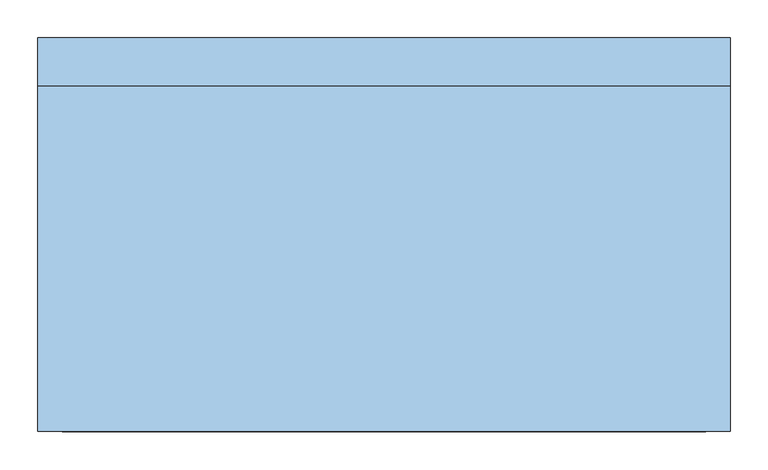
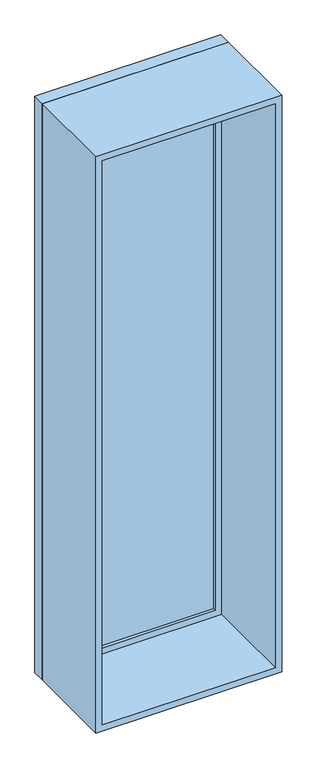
"""IFC4 building model written with IfcOpenShell, lengths in millimetres: window geometry, M_Неподвижный : 0915 x 1830 мм."""

import ifcopenshell
import ifcopenshell.guid

model = None  # the IFC model being written
_history = None  # IfcOwnerHistory: only IFC2X3 demands one
_inside = {}  # id of a spatial element -> (the spatial element, [elements in it])
_under = {}  # id of a project, library or spatial element -> (it, [spatial elements below it])
_declared = {}  # id of a project -> (the project, [libraries it declares])
_typed = {}  # id of a type object -> (the type object, [elements of that type])
_made_of = {}  # id of a material, layer set ... -> (it, [elements and type objects made of it])


def new_model(schema):
    """Start an empty IFC model of exactly this schema.

    Asked for "IFC4X3", IfcOpenShell would pick the latest addendum, in which some entities
    have other attributes; the version numbers below select the first issue.
    IFC2X3 requires an IfcOwnerHistory on every rooted entity: one is made here for all.
    """
    global model, _history
    if schema == "IFC4X3":
        model = ifcopenshell.file(schema_version=(4, 3, 0, 0))
    else:
        model = ifcopenshell.file(schema=schema)
    _inside.clear()
    _under.clear()
    _declared.clear()
    _typed.clear()
    _made_of.clear()
    _history = None
    if model.schema == "IFC2X3":
        org = make("IfcOrganization", Name="unknown")
        user = make(
            "IfcPersonAndOrganization",
            ThePerson=make("IfcPerson", FamilyName="unknown"),
            TheOrganization=org,
        )
        app = make(
            "IfcApplication",
            ApplicationDeveloper=org,
            Version="unknown",
            ApplicationFullName="unknown",
            ApplicationIdentifier="unknown",
        )
        _history = make(
            "IfcOwnerHistory",
            OwningUser=user,
            OwningApplication=app,
            ChangeAction="ADDED",
            CreationDate=0,
        )
    return model


def make(cls, **values):
    """One entity of the class cls with the attributes given. An attribute that is None is left unset."""
    return model.create_entity(
        cls, **{name: value for name, value in values.items() if value is not None}
    )


def rooted(cls, **values):
    """An entity with a GlobalId (a new one), such as an element, a storey or a relation."""
    return make(cls, GlobalId=ifcopenshell.guid.new(), OwnerHistory=_history, **values)


def si_unit(unit_type, name, prefix=None):
    """IfcSIUnit, for example si_unit("LENGTHUNIT", "METRE", prefix="MILLI")."""
    return make("IfcSIUnit", UnitType=unit_type, Prefix=prefix, Name=name)


def assignment(units):
    """IfcUnitAssignment: the units of a project."""
    return None if units is None else make("IfcUnitAssignment", Units=units)


def point(xyz):
    """IfcCartesianPoint."""
    return None if xyz is None else make("IfcCartesianPoint", Coordinates=xyz)


def direction(xyz):
    """IfcDirection."""
    return None if xyz is None else make("IfcDirection", DirectionRatios=xyz)


def frame(location, z_axis=None, x_axis=None):
    """IfcAxis2Placement3D, a coordinate frame: its origin and axes. An axis left out is left unset."""
    return make(
        "IfcAxis2Placement3D",
        Location=point(location),
        Axis=direction(z_axis),
        RefDirection=direction(x_axis),
    )


def origin():
    """The frame at (0, 0, 0) with its axes left unset."""
    return frame((0.0, 0.0, 0.0))


def place(relative_to, where):
    """IfcLocalPlacement: puts the frame where relative to a parent placement (None: the world)."""
    return make(
        "IfcLocalPlacement", PlacementRelTo=relative_to, RelativePlacement=where
    )


def context(
    kind, dimensions, precision=None, world=None, true_north=None, identifier=None
):
    """IfcGeometricRepresentationContext, for example the 3D "Model" context."""
    return make(
        "IfcGeometricRepresentationContext",
        ContextIdentifier=identifier,
        ContextType=kind,
        CoordinateSpaceDimension=dimensions,
        Precision=precision,
        WorldCoordinateSystem=world,
        TrueNorth=true_north,
    )


def project(units=None, contexts=None):
    """IfcProject with its units and contexts."""
    return rooted(
        "IfcProject",
        Name="project",
        RepresentationContexts=contexts,
        UnitsInContext=assignment(units),
    )


def spatial(cls, under=None, at=None, **own):
    """A site, building, storey or space (cls), placed at a placement, below another one or the project."""
    s = rooted(cls, ObjectPlacement=at, **own)
    if under is not None:
        _under.setdefault(under.id(), (under, []))[1].append(s)
    return s


def polyline(points):
    """IfcPolyline through the points."""
    return make("IfcPolyline", Points=[point(p) for p in points])


def outline(outer, holes=None, kind="AREA"):
    """IfcArbitraryClosedProfileDef: a profile drawn as a closed curve; with holes, ...WithVoids."""
    if holes is None:
        return make("IfcArbitraryClosedProfileDef", ProfileType=kind, OuterCurve=outer)
    return make(
        "IfcArbitraryProfileDefWithVoids",
        ProfileType=kind,
        OuterCurve=outer,
        InnerCurves=holes,
    )


def extrude(swept, where, along, depth):
    """IfcExtrudedAreaSolid: the profile swept, set in the frame where, extruded along a direction by depth."""
    return make(
        "IfcExtrudedAreaSolid",
        SweptArea=swept,
        Position=where,
        ExtrudedDirection=direction(along),
        Depth=depth,
    )


def shape(context_of_items, identifier, shape_type, items):
    """IfcShapeRepresentation: the items that make up one representation, for example the "Body"."""
    return make(
        "IfcShapeRepresentation",
        ContextOfItems=context_of_items,
        RepresentationIdentifier=identifier,
        RepresentationType=shape_type,
        Items=items,
    )


def source(mapping_origin, context_of_items, identifier, shape_type, items):
    """IfcRepresentationMap: a shape defined once, which mapped items show again and again."""
    return make(
        "IfcRepresentationMap",
        MappingOrigin=mapping_origin,
        MappedRepresentation=shape(context_of_items, identifier, shape_type, items),
    )


def transform(
    local_origin,
    x_axis=None,
    y_axis=None,
    z_axis=None,
    scale=None,
    scale2=None,
    scale3=None,
    uniform=True,
):
    """IfcCartesianTransformationOperator3D, or its non-uniform kind. x_axis, y_axis, z_axis: its Axis1, 2, 3."""
    if uniform:
        return make(
            "IfcCartesianTransformationOperator3D",
            Axis1=direction(x_axis),
            Axis2=direction(y_axis),
            LocalOrigin=point(local_origin),
            Scale=scale,
            Axis3=direction(z_axis),
        )
    return make(
        "IfcCartesianTransformationOperator3DnonUniform",
        Axis1=direction(x_axis),
        Axis2=direction(y_axis),
        LocalOrigin=point(local_origin),
        Scale=scale,
        Axis3=direction(z_axis),
        Scale2=scale2,
        Scale3=scale3,
    )


def mapped(mapping_source, mapping_target):
    """IfcMappedItem: shows the shape of a source again, moved by a transform."""
    return make(
        "IfcMappedItem", MappingSource=mapping_source, MappingTarget=mapping_target
    )


def made_of(thing, what):
    """Note that an element or type object is made of a material, layer set ...; save() writes the relation."""
    if what is not None:
        _made_of.setdefault(what.id(), (what, []))[1].append(thing)
    return thing


def element(
    cls,
    number,
    at=None,
    inside=None,
    cuts=None,
    type_object=None,
    material=None,
    context=None,
    identifier="Body",
    shape_type=None,
    held_by="IfcProductDefinitionShape",
    body=None,
    shapes=None,
    **own,
):
    """One element of the class cls, such as IfcWall. Its Tag is "e" and its number.

    at: its placement. inside: the storey or other place that contains it. cuts: it is an
    opening in that element (IfcRelVoidsElement). A single representation is given by context,
    identifier, shape_type and body (its items); several are given by shapes. held_by: the class
    of the entity that holds the representations. save() writes the other relations.
    """
    e = rooted(cls, Tag="e%d" % number, ObjectPlacement=at, **own)
    if body is not None:
        shapes = [shape(context, identifier, shape_type, body)]
    if shapes is not None:
        e.Representation = make(held_by, Representations=shapes)
    if inside is not None:
        _inside.setdefault(inside.id(), (inside, []))[1].append(e)
    if cuts is not None:
        rooted(
            "IfcRelVoidsElement", RelatingBuildingElement=cuts, RelatedOpeningElement=e
        )
    if type_object is not None:
        _typed.setdefault(type_object.id(), (type_object, []))[1].append(e)
    return made_of(e, material)


def aggregate(whole, parts):
    """IfcRelAggregates: a whole, such as a stair, and the parts it consists of."""
    return rooted("IfcRelAggregates", RelatingObject=whole, RelatedObjects=parts)


def save(model, path):
    """Write the relations noted so far, then the file.

    IfcRelAggregates (storeys below a building ...), IfcRelContainedInSpatialStructure (elements
    in a storey), IfcRelDefinesByType, IfcRelAssociatesMaterial and IfcRelDeclares: one each for
    every whole, place, type object, material and project.
    """
    for whole, parts in _under.values():
        aggregate(whole, parts)
    for where, things in _inside.values():
        rooted(
            "IfcRelContainedInSpatialStructure",
            RelatedElements=things,
            RelatingStructure=where,
        )
    for kind, things in _typed.values():
        rooted("IfcRelDefinesByType", RelatedObjects=things, RelatingType=kind)
    for what, things in _made_of.values():
        rooted("IfcRelAssociatesMaterial", RelatedObjects=things, RelatingMaterial=what)
    for by, libraries in _declared.values():
        rooted("IfcRelDeclares", RelatingContext=by, RelatedDefinitions=libraries)
    model.write(path)


def window_aa7a5ffd(model_context):
    return source(origin(), model_context, "Body", "SweptSolid", [
        extrude(outline(polyline([(-394.5, 238.0), (394.5, 238.0), (394.5, 226.0), (-394.5, 226.0), (-394.5, 238.0)])), frame((0.0, 0.0, 368.0), z_axis=(0.0, 0.0, 1.0), x_axis=(1.0, 0.0, 0.0)), (0.0, 0.0, 1.0), 2874.0),
        extrude(outline(polyline([(3286.0, -438.5), (324.0, -438.5), (324.0, 438.5), (3286.0, 438.5), (3286.0, -438.5)]), holes=[polyline([(3242.0, -394.5), (3242.0, 394.5), (368.0, 394.5), (368.0, -394.5), (3242.0, -394.5)])]), frame((0.0, 210.0, 0.0), z_axis=(0.0, 1.0, 0.0), x_axis=(0.0, 0.0, 1.0)), (0.0, 0.0, 1.0), 44.0),
        extrude(outline(polyline([(3305.0, -457.5), (305.0, -457.5), (305.0, 457.5), (3305.0, 457.5), (3305.0, -457.5)]), holes=[polyline([(3286.0, -438.5), (3286.0, 438.5), (324.0, 438.5), (324.0, -438.5), (3286.0, -438.5)])]), frame((0.0, 210.0, 0.0), z_axis=(0.0, 1.0, 0.0), x_axis=(0.0, 0.0, 1.0)), (0.0, 0.0, 1.0), 63.0),
        extrude(outline(polyline([(3305.0, -457.5), (305.0, -457.5), (305.0, 457.5), (3305.0, 457.5), (3305.0, -457.5)]), holes=[polyline([(3273.0, -425.5), (3273.0, 425.5), (337.0, 425.5), (337.0, -425.5), (3273.0, -425.5)])]), frame((0.0, -247.0, 0.0), z_axis=(0.0, 1.0, 0.0), x_axis=(0.0, 0.0, 1.0)), (0.0, 0.0, 1.0), 457.0),
    ])


if __name__ == "__main__":
    model = new_model("IFC4")
    model_context = context("Model", 3, world=origin())
    ifc_project = project(units=[si_unit("LENGTHUNIT", "METRE", prefix="MILLI")], contexts=[model_context])
    site = spatial("IfcSite", under=ifc_project)
    building = spatial("IfcBuilding", under=site)
    placement = place(None, origin())
    window_shape = window_aa7a5ffd(model_context)
    element("IfcWindow", 1, ObjectType="M_Неподвижный : 0915 x 1830 мм", at=placement, inside=building, context=model_context, shape_type="MappedRepresentation", body=[
        mapped(window_shape, transform((0.0, 0.0, 0.0), x_axis=(1.0, 0.0, 0.0), y_axis=(0.0, 1.0, 0.0), z_axis=(0.0, 0.0, 1.0))),
    ])
    save(model, "model.ifc")
